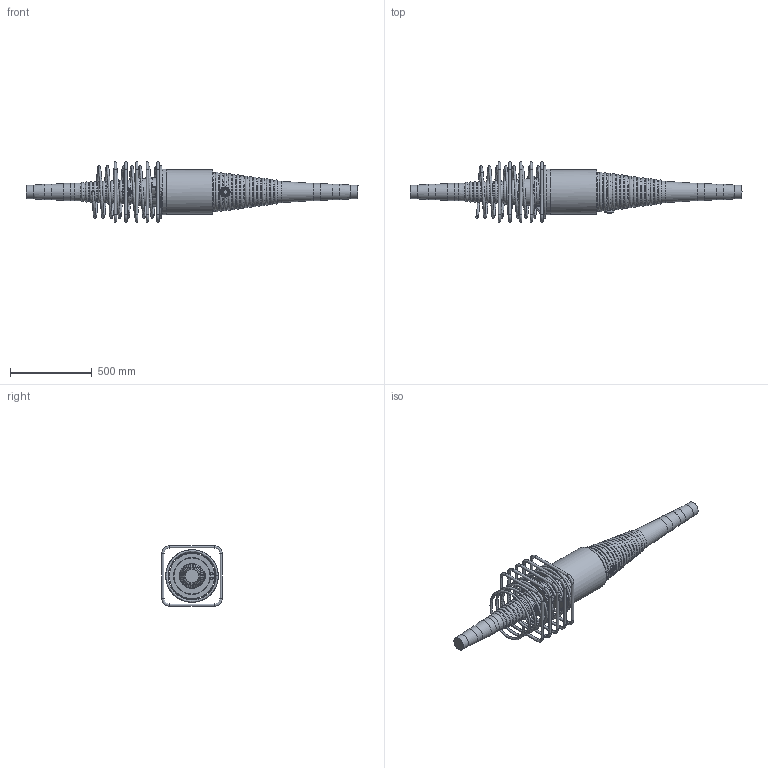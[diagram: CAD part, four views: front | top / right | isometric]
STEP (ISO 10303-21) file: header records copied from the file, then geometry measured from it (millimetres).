
FILE_DESCRIPTION(/* description */ (''),/* implementation_level */ '2;1');
FILE_NAME(/* name */ 'Z:\04 Publications\05 Give-out\BBR\6_3D_Models\BBR VT CONA CMI\BBR VT CONA CMI BT\01606\BBR VT CONA CMI BT 1606_Coupler H Assembly_CS-34,28.stp',/* time_stamp */ '2017-05-05T09:10:01+02:00',/* author */ ('IP'),/* organization */ (''),/* preprocessor_version */ 'ST-DEVELOPER v16.1',/* originating_system */ 'Autodesk Inventor 2016',/* authorisation */ '');
FILE_SCHEMA (('AUTOMOTIVE_DESIGN { 1 0 10303 214 3 1 1 }'));
Length unit declared in the file: millimetre
Products named in the file (1): BBR VT CONA CMI BT 1606_Coupler H Assembly_CS-34,28
Bounding box: 2025.13 x 370 x 370 mm (x, y, z)
Volume: 48079243.1 mm3; surface area: 1878404.8 mm2
Topology: 7 solids, 8 shells, 976 faces, 2487 edges, 1577 vertices
Faces by surface type: bspline 395, plane 304, torus 128, cylinder 105, cone 34, sphere 10
Full cylindrical faces by diameter (mm): 16 x20, 34 x2, 57 x2, 84 x2, 94 x2, 104 x2, 164 x1, 218 x1, 223.017 x1, 273 x1, 280 x1
Entity records: 40144 total; most frequent: CARTESIAN_POINT 19315, ORIENTED_EDGE 4578, DIRECTION 3230, EDGE_CURVE 2289, VERTEX_POINT 1564, EDGE_LOOP 1223, AXIS2_PLACEMENT_3D 1161, FACE_OUTER_BOUND 976
